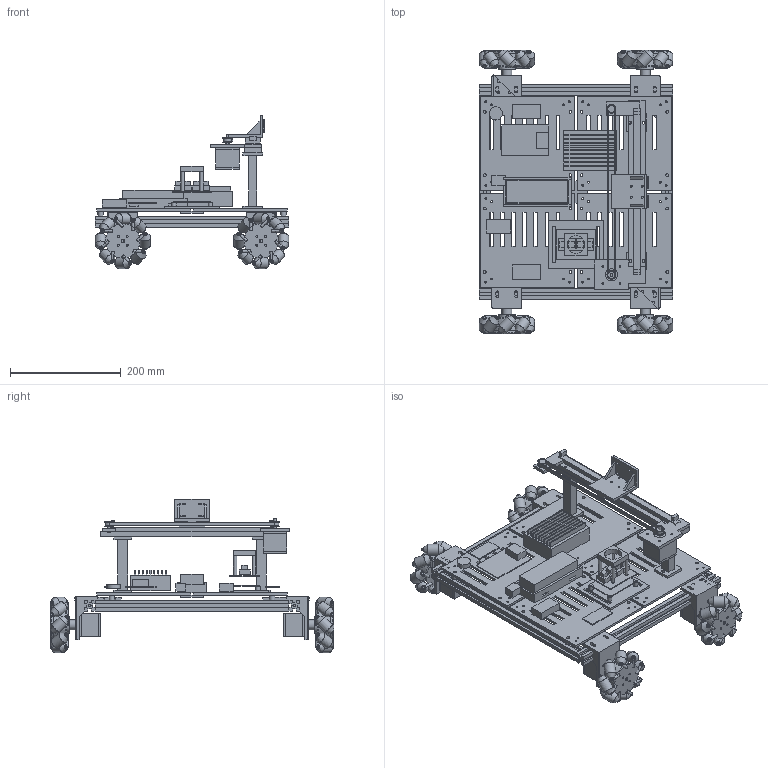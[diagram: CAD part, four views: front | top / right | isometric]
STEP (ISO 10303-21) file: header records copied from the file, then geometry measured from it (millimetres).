
FILE_DESCRIPTION(('Open CASCADE Model'),'2;1');
FILE_NAME('Open CASCADE Shape Model','2026-09-04T19:26:02',('Author'),( 'Open CASCADE'),'Open CASCADE STEP processor 7.9','Open CASCADE 7.9' ,'Unknown');
FILE_SCHEMA(('AUTOMOTIVE_DESIGN { 1 0 10303 214 1 1 1 1 }'));
Length unit declared in the file: millimetre
Products named in the file (251): Mecanum_presence_rover_CONCEPT; 2020_side_-1; 2020_cross_-1; 2020_side_1; 2020_cross_1; rear_right_motor; motor_laminations; front_flange; rear_flange; 5mm_D_shaft; rear_right_mount; rear_right_hub_interface_TBD; rear_right_mecanum; wheel_core; wheel_side_plate; free_roller_1; roller_axle_1; roller_support_1_-1; roller_support_1_1; free_roller_2; roller_axle_2; roller_support_2_-1; roller_support_2_1; free_roller_3; roller_axle_3; roller_support_3_-1; roller_support_3_1; free_roller_4; roller_axle_4; roller_support_4_-1; roller_support_4_1; free_roller_5; roller_axle_5; roller_support_5_-1; roller_support_5_1; free_roller_6; roller_axle_6; roller_support_6_-1; roller_support_6_1; free_roller_7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
Assembly tree (250 placements, depth 3):
  Mecanum_presence_rover_CONCEPT
    2020_side_-1
    2020_cross_-1
    2020_side_1
    2020_cross_1
    rear_right_motor
      motor_laminations
      front_flange
      rear_flange
      5mm_D_shaft
    rear_right_mount
    rear_right_hub_interface_TBD
    rear_right_mecanum
      wheel_core
      wheel_side_plate
      wheel_side_plate
      free_roller_1
      roller_axle_1
      roller_support_1_-1
      roller_support_1_1
      free_roller_2
      roller_axle_2
      roller_support_2_-1
      roller_support_2_1
      free_roller_3
      roller_axle_3
      roller_support_3_-1
      roller_support_3_1
      free_roller_4
      roller_axle_4
      roller_support_4_-1
      roller_support_4_1
      free_roller_5
      roller_axle_5
      roller_support_5_-1
      roller_support_5_1
      free_roller_6
      roller_axle_6
      roller_support_6_-1
      roller_support_6_1
      free_roller_7
      roller_axle_7
      roller_support_7_-1
      roller_support_7_1
      free_roller_8
      roller_axle_8
      roller_support_8_-1
      roller_support_8_1
    rear_left_motor
      motor_laminations
      front_flange
      rear_flange
      5mm_D_shaft
    rear_left_mount
    rear_left_hub_interface_TBD
    rear_left_mecanum
      wheel_core
      wheel_side_plate
      wheel_side_plate
      free_roller_1
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Bounding box: 350 x 511.87 x 277 mm (x, y, z)
Volume: 2740383.9 mm3; surface area: 1082493.3 mm2
Topology: 241 solids, 241 shells, 1679 faces, 3442 edges, 2270 vertices
Faces by surface type: plane 1174, cylinder 441, cone 64
Full cylindrical faces by diameter (mm): 3.2 x124, 4 x32, 4.4 x32, 5 x73, 5.2 x36, 6 x17, 6.4 x1, 8 x4, 10 x4, 12.74 x2, 16 x4, 18 x4, 20 x32, 22 x5, 22.2 x5, 24 x1, 30 x4, 32 x1, 56 x4, 62 x8
Entity records: 98338 total; most frequent: CARTESIAN_POINT 18030, DIRECTION 13850, LINE 7218, VECTOR 7218, ORIENTED_EDGE 6884, PCURVE 6884, DEFINITIONAL_REPRESENTATION 6884, EDGE_CURVE 3442
